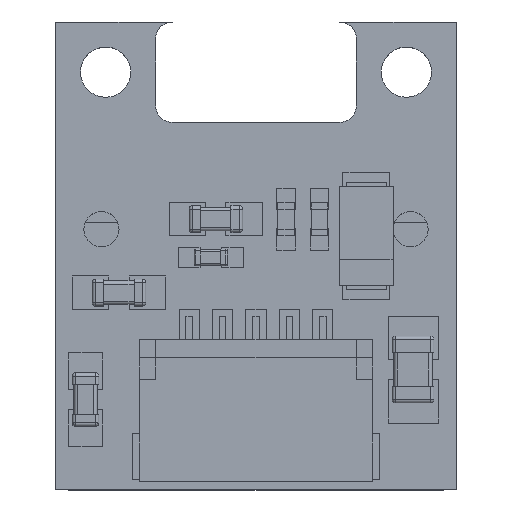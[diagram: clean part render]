
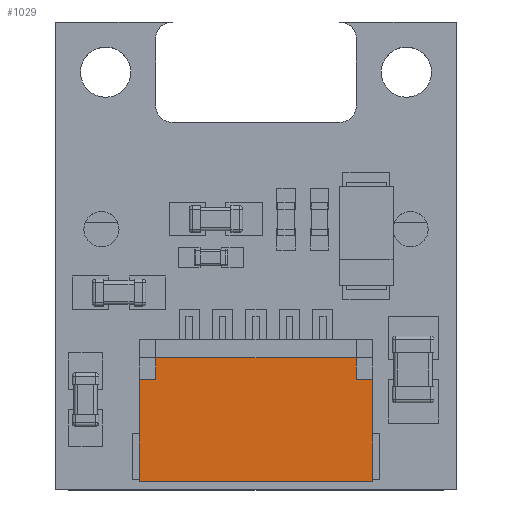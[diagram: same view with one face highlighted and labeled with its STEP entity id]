
A CAD part, top view. The second image highlights one B-rep face of the part: STEP entity #1029.
In plain terms, the highlighted planar face has unit normal (0, 0, 1).
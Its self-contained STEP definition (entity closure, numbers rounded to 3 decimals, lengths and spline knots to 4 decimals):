
#100 = PLANE('',#101);
#101 = AXIS2_PLACEMENT_3D('',#102,#103,#104);
#102 = CARTESIAN_POINT('',(23.,15.25,3.555));
#103 = DIRECTION('',(0.,1.,0.));
#104 = DIRECTION('',(-1.,0.,0.));
#373 = EDGE_CURVE('',#374,#376,#378,.T.);
#374 = VERTEX_POINT('',#375);
#375 = CARTESIAN_POINT('',(27.,15.25,3.495));
#376 = VERTEX_POINT('',#377);
#377 = CARTESIAN_POINT('',(20.,15.25,3.495));
#378 = SURFACE_CURVE('',#379,(#383,#390),.PCURVE_S1.);
#379 = LINE('',#380,#381);
#380 = CARTESIAN_POINT('',(27.,15.25,3.495));
#381 = VECTOR('',#382,1.);
#382 = DIRECTION('',(-1.,0.,0.));
#383 = PCURVE('',#100,#384);
#384 = DEFINITIONAL_REPRESENTATION('',(#385),#389);
#385 = LINE('',#386,#387);
#386 = CARTESIAN_POINT('',(-4.,-0.06));
#387 = VECTOR('',#388,1.);
#388 = DIRECTION('',(1.,0.));
#389 = ( GEOMETRIC_REPRESENTATION_CONTEXT(2) 
PARAMETRIC_REPRESENTATION_CONTEXT() REPRESENTATION_CONTEXT('2D SPACE',''
  ) );
#390 = PCURVE('',#391,#396);
#391 = PLANE('',#392);
#392 = AXIS2_PLACEMENT_3D('',#393,#394,#395);
#393 = CARTESIAN_POINT('',(23.5,18.0113,3.495));
#394 = DIRECTION('',(0.,0.,-1.));
#395 = DIRECTION('',(1.,0.,0.));
#396 = DEFINITIONAL_REPRESENTATION('',(#397),#401);
#397 = LINE('',#398,#399);
#398 = CARTESIAN_POINT('',(3.5,2.761));
#399 = VECTOR('',#400,1.);
#400 = DIRECTION('',(-1.,0.));
#401 = ( GEOMETRIC_REPRESENTATION_CONTEXT(2) 
PARAMETRIC_REPRESENTATION_CONTEXT() REPRESENTATION_CONTEXT('2D SPACE',''
  ) );
#419 = PLANE('',#420);
#420 = AXIS2_PLACEMENT_3D('',#421,#422,#423);
#421 = CARTESIAN_POINT('',(27.,19.5,3.555));
#422 = DIRECTION('',(-1.,0.,0.));
#423 = DIRECTION('',(0.,0.,-1.));
#631 = PLANE('',#632);
#632 = AXIS2_PLACEMENT_3D('',#633,#634,#635);
#633 = CARTESIAN_POINT('',(20.,19.5,3.555));
#634 = DIRECTION('',(1.,0.,0.));
#635 = DIRECTION('',(0.,1.,0.));
#1029 = ADVANCED_FACE('',(#1030),#391,.F.);
#1030 = FACE_BOUND('',#1031,.F.);
#1031 = EDGE_LOOP('',(#1032,#1033,#1056,#1084,#1112,#1140,#1168,#1196));
#1032 = ORIENTED_EDGE('',*,*,#373,.T.);
#1033 = ORIENTED_EDGE('',*,*,#1034,.F.);
#1034 = EDGE_CURVE('',#1035,#376,#1037,.T.);
#1035 = VERTEX_POINT('',#1036);
#1036 = CARTESIAN_POINT('',(20.,18.3013,3.495));
#1037 = SURFACE_CURVE('',#1038,(#1042,#1049),.PCURVE_S1.);
#1038 = LINE('',#1039,#1040);
#1039 = CARTESIAN_POINT('',(20.,18.3013,3.495));
#1040 = VECTOR('',#1041,1.);
#1041 = DIRECTION('',(0.,-1.,0.));
#1042 = PCURVE('',#391,#1043);
#1043 = DEFINITIONAL_REPRESENTATION('',(#1044),#1048);
#1044 = LINE('',#1045,#1046);
#1045 = CARTESIAN_POINT('',(-3.5,-0.29));
#1046 = VECTOR('',#1047,1.);
#1047 = DIRECTION('',(0.,1.));
#1048 = ( GEOMETRIC_REPRESENTATION_CONTEXT(2) 
PARAMETRIC_REPRESENTATION_CONTEXT() REPRESENTATION_CONTEXT('2D SPACE',''
  ) );
#1049 = PCURVE('',#631,#1050);
#1050 = DEFINITIONAL_REPRESENTATION('',(#1051),#1055);
#1051 = LINE('',#1052,#1053);
#1052 = CARTESIAN_POINT('',(-1.199,-0.06));
#1053 = VECTOR('',#1054,1.);
#1054 = DIRECTION('',(-1.,0.));
#1055 = ( GEOMETRIC_REPRESENTATION_CONTEXT(2) 
PARAMETRIC_REPRESENTATION_CONTEXT() REPRESENTATION_CONTEXT('2D SPACE',''
  ) );
#1056 = ORIENTED_EDGE('',*,*,#1057,.F.);
#1057 = EDGE_CURVE('',#1058,#1035,#1060,.T.);
#1058 = VERTEX_POINT('',#1059);
#1059 = CARTESIAN_POINT('',(20.5,18.3013,3.495));
#1060 = SURFACE_CURVE('',#1061,(#1065,#1072),.PCURVE_S1.);
#1061 = LINE('',#1062,#1063);
#1062 = CARTESIAN_POINT('',(20.5,18.3013,3.495));
#1063 = VECTOR('',#1064,1.);
#1064 = DIRECTION('',(-1.,0.,0.));
#1065 = PCURVE('',#391,#1066);
#1066 = DEFINITIONAL_REPRESENTATION('',(#1067),#1071);
#1067 = LINE('',#1068,#1069);
#1068 = CARTESIAN_POINT('',(-3.,-0.29));
#1069 = VECTOR('',#1070,1.);
#1070 = DIRECTION('',(-1.,0.));
#1071 = ( GEOMETRIC_REPRESENTATION_CONTEXT(2) 
PARAMETRIC_REPRESENTATION_CONTEXT() REPRESENTATION_CONTEXT('2D SPACE',''
  ) );
#1072 = PCURVE('',#1073,#1078);
#1073 = PLANE('',#1074);
#1074 = AXIS2_PLACEMENT_3D('',#1075,#1076,#1077);
#1075 = CARTESIAN_POINT('',(20.,18.3013,3.555));
#1076 = DIRECTION('',(0.,1.,0.));
#1077 = DIRECTION('',(0.,0.,-1.));
#1078 = DEFINITIONAL_REPRESENTATION('',(#1079),#1083);
#1079 = LINE('',#1080,#1081);
#1080 = CARTESIAN_POINT('',(0.06,-0.5));
#1081 = VECTOR('',#1082,1.);
#1082 = DIRECTION('',(0.,1.));
#1083 = ( GEOMETRIC_REPRESENTATION_CONTEXT(2) 
PARAMETRIC_REPRESENTATION_CONTEXT() REPRESENTATION_CONTEXT('2D SPACE',''
  ) );
#1084 = ORIENTED_EDGE('',*,*,#1085,.T.);
#1085 = EDGE_CURVE('',#1058,#1086,#1088,.T.);
#1086 = VERTEX_POINT('',#1087);
#1087 = CARTESIAN_POINT('',(20.5,18.95,3.495));
#1088 = SURFACE_CURVE('',#1089,(#1093,#1100),.PCURVE_S1.);
#1089 = LINE('',#1090,#1091);
#1090 = CARTESIAN_POINT('',(20.5,18.7557,3.495));
#1091 = VECTOR('',#1092,1.);
#1092 = DIRECTION('',(0.,1.,0.));
#1093 = PCURVE('',#391,#1094);
#1094 = DEFINITIONAL_REPRESENTATION('',(#1095),#1099);
#1095 = LINE('',#1096,#1097);
#1096 = CARTESIAN_POINT('',(-3.,-0.744));
#1097 = VECTOR('',#1098,1.);
#1098 = DIRECTION('',(0.,-1.));
#1099 = ( GEOMETRIC_REPRESENTATION_CONTEXT(2) 
PARAMETRIC_REPRESENTATION_CONTEXT() REPRESENTATION_CONTEXT('2D SPACE',''
  ) );
#1100 = PCURVE('',#1101,#1106);
#1101 = PLANE('',#1102);
#1102 = AXIS2_PLACEMENT_3D('',#1103,#1104,#1105);
#1103 = CARTESIAN_POINT('',(20.5,19.5,3.055));
#1104 = DIRECTION('',(1.,0.,0.));
#1105 = DIRECTION('',(0.,0.,-1.));
#1106 = DEFINITIONAL_REPRESENTATION('',(#1107),#1111);
#1107 = LINE('',#1108,#1109);
#1108 = CARTESIAN_POINT('',(-0.44,-0.744));
#1109 = VECTOR('',#1110,1.);
#1110 = DIRECTION('',(0.,1.));
#1111 = ( GEOMETRIC_REPRESENTATION_CONTEXT(2) 
PARAMETRIC_REPRESENTATION_CONTEXT() REPRESENTATION_CONTEXT('2D SPACE',''
  ) );
#1112 = ORIENTED_EDGE('',*,*,#1113,.F.);
#1113 = EDGE_CURVE('',#1114,#1086,#1116,.T.);
#1114 = VERTEX_POINT('',#1115);
#1115 = CARTESIAN_POINT('',(26.5,18.95,3.495));
#1116 = SURFACE_CURVE('',#1117,(#1121,#1128),.PCURVE_S1.);
#1117 = LINE('',#1118,#1119);
#1118 = CARTESIAN_POINT('',(26.5,18.95,3.495));
#1119 = VECTOR('',#1120,1.);
#1120 = DIRECTION('',(-1.,0.,0.));
#1121 = PCURVE('',#391,#1122);
#1122 = DEFINITIONAL_REPRESENTATION('',(#1123),#1127);
#1123 = LINE('',#1124,#1125);
#1124 = CARTESIAN_POINT('',(3.,-0.939));
#1125 = VECTOR('',#1126,1.);
#1126 = DIRECTION('',(-1.,0.));
#1127 = ( GEOMETRIC_REPRESENTATION_CONTEXT(2) 
PARAMETRIC_REPRESENTATION_CONTEXT() REPRESENTATION_CONTEXT('2D SPACE',''
  ) );
#1128 = PCURVE('',#1129,#1134);
#1129 = PLANE('',#1130);
#1130 = AXIS2_PLACEMENT_3D('',#1131,#1132,#1133);
#1131 = CARTESIAN_POINT('',(23.5,18.95,3.055));
#1132 = DIRECTION('',(0.,-1.,0.));
#1133 = DIRECTION('',(0.,0.,1.));
#1134 = DEFINITIONAL_REPRESENTATION('',(#1135),#1139);
#1135 = LINE('',#1136,#1137);
#1136 = CARTESIAN_POINT('',(0.44,-3.));
#1137 = VECTOR('',#1138,1.);
#1138 = DIRECTION('',(0.,1.));
#1139 = ( GEOMETRIC_REPRESENTATION_CONTEXT(2) 
PARAMETRIC_REPRESENTATION_CONTEXT() REPRESENTATION_CONTEXT('2D SPACE',''
  ) );
#1140 = ORIENTED_EDGE('',*,*,#1141,.F.);
#1141 = EDGE_CURVE('',#1142,#1114,#1144,.T.);
#1142 = VERTEX_POINT('',#1143);
#1143 = CARTESIAN_POINT('',(26.5,18.3013,3.495));
#1144 = SURFACE_CURVE('',#1145,(#1149,#1156),.PCURVE_S1.);
#1145 = LINE('',#1146,#1147);
#1146 = CARTESIAN_POINT('',(26.5,18.7557,3.495));
#1147 = VECTOR('',#1148,1.);
#1148 = DIRECTION('',(0.,1.,0.));
#1149 = PCURVE('',#391,#1150);
#1150 = DEFINITIONAL_REPRESENTATION('',(#1151),#1155);
#1151 = LINE('',#1152,#1153);
#1152 = CARTESIAN_POINT('',(3.,-0.744));
#1153 = VECTOR('',#1154,1.);
#1154 = DIRECTION('',(0.,-1.));
#1155 = ( GEOMETRIC_REPRESENTATION_CONTEXT(2) 
PARAMETRIC_REPRESENTATION_CONTEXT() REPRESENTATION_CONTEXT('2D SPACE',''
  ) );
#1156 = PCURVE('',#1157,#1162);
#1157 = PLANE('',#1158);
#1158 = AXIS2_PLACEMENT_3D('',#1159,#1160,#1161);
#1159 = CARTESIAN_POINT('',(26.5,19.5,3.055));
#1160 = DIRECTION('',(-1.,0.,0.));
#1161 = DIRECTION('',(0.,0.,-1.));
#1162 = DEFINITIONAL_REPRESENTATION('',(#1163),#1167);
#1163 = LINE('',#1164,#1165);
#1164 = CARTESIAN_POINT('',(-0.44,0.744));
#1165 = VECTOR('',#1166,1.);
#1166 = DIRECTION('',(0.,-1.));
#1167 = ( GEOMETRIC_REPRESENTATION_CONTEXT(2) 
PARAMETRIC_REPRESENTATION_CONTEXT() REPRESENTATION_CONTEXT('2D SPACE',''
  ) );
#1168 = ORIENTED_EDGE('',*,*,#1169,.F.);
#1169 = EDGE_CURVE('',#1170,#1142,#1172,.T.);
#1170 = VERTEX_POINT('',#1171);
#1171 = CARTESIAN_POINT('',(27.,18.3013,3.495));
#1172 = SURFACE_CURVE('',#1173,(#1177,#1184),.PCURVE_S1.);
#1173 = LINE('',#1174,#1175);
#1174 = CARTESIAN_POINT('',(27.,18.3013,3.495));
#1175 = VECTOR('',#1176,1.);
#1176 = DIRECTION('',(-1.,0.,0.));
#1177 = PCURVE('',#391,#1178);
#1178 = DEFINITIONAL_REPRESENTATION('',(#1179),#1183);
#1179 = LINE('',#1180,#1181);
#1180 = CARTESIAN_POINT('',(3.5,-0.29));
#1181 = VECTOR('',#1182,1.);
#1182 = DIRECTION('',(-1.,0.));
#1183 = ( GEOMETRIC_REPRESENTATION_CONTEXT(2) 
PARAMETRIC_REPRESENTATION_CONTEXT() REPRESENTATION_CONTEXT('2D SPACE',''
  ) );
#1184 = PCURVE('',#1185,#1190);
#1185 = PLANE('',#1186);
#1186 = AXIS2_PLACEMENT_3D('',#1187,#1188,#1189);
#1187 = CARTESIAN_POINT('',(27.,18.3013,3.555));
#1188 = DIRECTION('',(0.,1.,0.));
#1189 = DIRECTION('',(0.,0.,1.));
#1190 = DEFINITIONAL_REPRESENTATION('',(#1191),#1195);
#1191 = LINE('',#1192,#1193);
#1192 = CARTESIAN_POINT('',(-0.06,0.));
#1193 = VECTOR('',#1194,1.);
#1194 = DIRECTION('',(0.,-1.));
#1195 = ( GEOMETRIC_REPRESENTATION_CONTEXT(2) 
PARAMETRIC_REPRESENTATION_CONTEXT() REPRESENTATION_CONTEXT('2D SPACE',''
  ) );
#1196 = ORIENTED_EDGE('',*,*,#1197,.F.);
#1197 = EDGE_CURVE('',#374,#1170,#1198,.T.);
#1198 = SURFACE_CURVE('',#1199,(#1203,#1210),.PCURVE_S1.);
#1199 = LINE('',#1200,#1201);
#1200 = CARTESIAN_POINT('',(27.,15.25,3.495));
#1201 = VECTOR('',#1202,1.);
#1202 = DIRECTION('',(0.,1.,0.));
#1203 = PCURVE('',#391,#1204);
#1204 = DEFINITIONAL_REPRESENTATION('',(#1205),#1209);
#1205 = LINE('',#1206,#1207);
#1206 = CARTESIAN_POINT('',(3.5,2.761));
#1207 = VECTOR('',#1208,1.);
#1208 = DIRECTION('',(0.,-1.));
#1209 = ( GEOMETRIC_REPRESENTATION_CONTEXT(2) 
PARAMETRIC_REPRESENTATION_CONTEXT() REPRESENTATION_CONTEXT('2D SPACE',''
  ) );
#1210 = PCURVE('',#419,#1211);
#1211 = DEFINITIONAL_REPRESENTATION('',(#1212),#1216);
#1212 = LINE('',#1213,#1214);
#1213 = CARTESIAN_POINT('',(0.06,4.25));
#1214 = VECTOR('',#1215,1.);
#1215 = DIRECTION('',(0.,-1.));
#1216 = ( GEOMETRIC_REPRESENTATION_CONTEXT(2) 
PARAMETRIC_REPRESENTATION_CONTEXT() REPRESENTATION_CONTEXT('2D SPACE',''
  ) );
